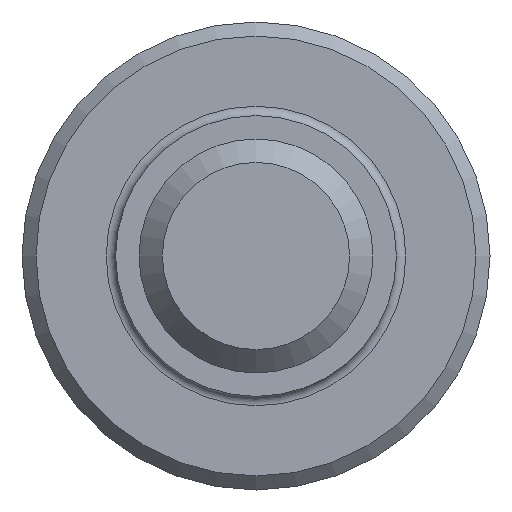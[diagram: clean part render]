
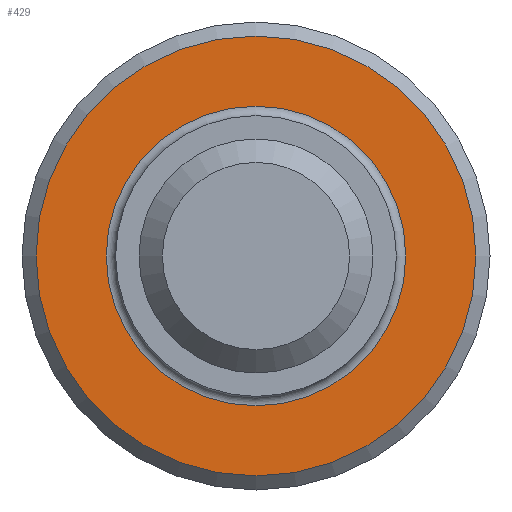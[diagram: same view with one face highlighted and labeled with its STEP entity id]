
A CAD part, front view. The second image highlights one B-rep face of the part: STEP entity #429.
In plain terms, the highlighted planar face has unit normal (0, -1, 0).
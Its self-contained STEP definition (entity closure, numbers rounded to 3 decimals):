
#11 = DIRECTION ( 'NONE',  ( 0., -1., 0. ) ) ;
#17 = DIRECTION ( 'NONE',  ( 0., 0., 1. ) ) ;
#24 = DIRECTION ( 'NONE',  ( 0., 1., 0. ) ) ;
#26 = CARTESIAN_POINT ( 'NONE',  ( -5., -3., 0. ) ) ;
#52 = DIRECTION ( 'NONE',  ( 0., 0., 1. ) ) ;
#67 = FACE_OUTER_BOUND ( 'NONE', #231, .T. ) ;
#97 = ORIENTED_EDGE ( 'NONE', *, *, #350, .T. ) ;
#103 = DIRECTION ( 'NONE',  ( 0., 0., 1. ) ) ;
#131 = DIRECTION ( 'NONE',  ( 0., 1., 0. ) ) ;
#132 = CARTESIAN_POINT ( 'NONE',  ( 0., -3., 0. ) ) ;
#231 = EDGE_LOOP ( 'NONE', ( #97 ) ) ;
#234 = ORIENTED_EDGE ( 'NONE', *, *, #292, .T. ) ;
#268 = CIRCLE ( 'NONE', #518, 4.7 ) ;
#274 = CARTESIAN_POINT ( 'NONE',  ( 0., -3., 4.7 ) ) ;
#292 = EDGE_CURVE ( 'NONE', #445, #445, #504, .T. ) ;
#309 = FACE_BOUND ( 'NONE', #434, .T. ) ;
#314 = AXIS2_PLACEMENT_3D ( 'NONE', #132, #131, #52 ) ;
#350 = EDGE_CURVE ( 'NONE', #492, #492, #268, .T. ) ;
#405 = CARTESIAN_POINT ( 'NONE',  ( 0., -3., 3.2 ) ) ;
#429 = ADVANCED_FACE ( 'NONE', ( #309, #67 ), #510, .F. ) ;
#434 = EDGE_LOOP ( 'NONE', ( #234 ) ) ;
#445 = VERTEX_POINT ( 'NONE', #405 ) ;
#460 = CARTESIAN_POINT ( 'NONE',  ( 0., -3., 0. ) ) ;
#483 = AXIS2_PLACEMENT_3D ( 'NONE', #26, #24, #103 ) ;
#492 = VERTEX_POINT ( 'NONE', #274 ) ;
#504 = CIRCLE ( 'NONE', #314, 3.2 ) ;
#510 = PLANE ( 'NONE',  #483 ) ;
#518 = AXIS2_PLACEMENT_3D ( 'NONE', #460, #11, #17 ) ;
